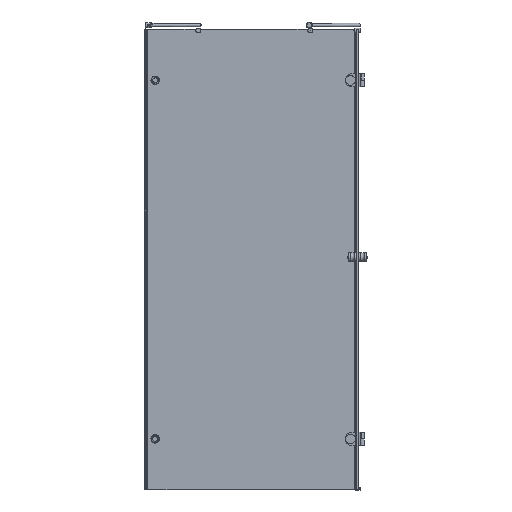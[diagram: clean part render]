
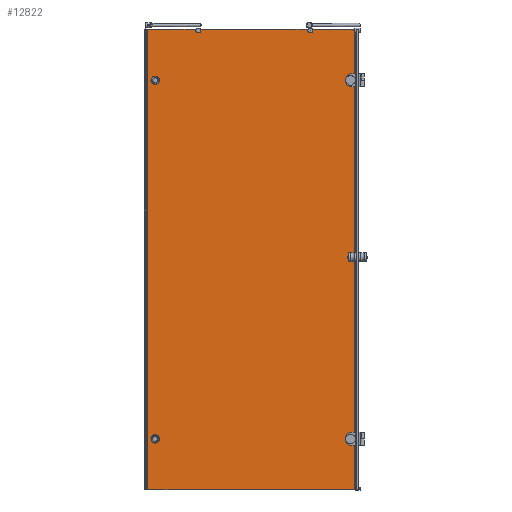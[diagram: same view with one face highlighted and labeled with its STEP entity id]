
A CAD part, front view. The second image highlights one B-rep face of the part: STEP entity #12822.
In plain terms, the highlighted planar face has unit normal (0, -1, 0).
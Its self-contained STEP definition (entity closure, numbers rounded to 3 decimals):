
#507=FACE_OUTER_BOUND($,#1206,.T.);
#1206=EDGE_LOOP($,(#8311,#8312,#8313,#8314,#8315,#8316,#8317,#8318));
#1926=CIRCLE($,#13565,10.);
#1968=CIRCLE($,#13640,10.);
#2469=LINE($,#18537,#3724);
#2508=LINE($,#18651,#3763);
#2541=LINE($,#18851,#3796);
#2542=LINE($,#18853,#3797);
#2543=LINE($,#18854,#3798);
#2544=LINE($,#18855,#3799);
#3724=VECTOR($,#14920,444.574);
#3763=VECTOR($,#15007,1900.);
#3796=VECTOR($,#15130,198.474);
#3797=VECTOR($,#15131,1900.);
#3798=VECTOR($,#15132,853.3);
#3799=VECTOR($,#15133,174.531);
#4960=VERTEX_POINT($,#18510);
#4961=VERTEX_POINT($,#18511);
#4970=VERTEX_POINT($,#18535);
#5020=VERTEX_POINT($,#18648);
#5021=VERTEX_POINT($,#18650);
#5060=VERTEX_POINT($,#18848);
#5061=VERTEX_POINT($,#18850);
#5062=VERTEX_POINT($,#18852);
#6220=EDGE_CURVE($,#4960,#4961,#1926,.T.);
#6232=EDGE_CURVE($,#4970,#4960,#2469,.T.);
#6286=EDGE_CURVE($,#5020,#5021,#2508,.T.);
#6347=EDGE_CURVE($,#5060,#4970,#1968,.T.);
#6348=EDGE_CURVE($,#5061,#5060,#2541,.T.);
#6349=EDGE_CURVE($,#5062,#5061,#2542,.T.);
#6350=EDGE_CURVE($,#5062,#5021,#2543,.T.);
#6351=EDGE_CURVE($,#4961,#5020,#2544,.T.);
#8311=ORIENTED_EDGE($,*,*,#6220,.F.);
#8312=ORIENTED_EDGE($,*,*,#6232,.F.);
#8313=ORIENTED_EDGE($,*,*,#6347,.F.);
#8314=ORIENTED_EDGE($,*,*,#6348,.F.);
#8315=ORIENTED_EDGE($,*,*,#6349,.F.);
#8316=ORIENTED_EDGE($,*,*,#6350,.T.);
#8317=ORIENTED_EDGE($,*,*,#6286,.F.);
#8318=ORIENTED_EDGE($,*,*,#6351,.F.);
#11611=PLANE($,#13639);
#12822=ADVANCED_FACE($,(#507),#11611,.F.);
#13565=AXIS2_PLACEMENT_3D($,#18512,#14897,#14898);
#13639=AXIS2_PLACEMENT_3D($,#18847,#15126,#15127);
#13640=AXIS2_PLACEMENT_3D($,#18849,#15128,#15129);
#14897=DIRECTION('center_axis',(0.,-1.,0.));
#14898=DIRECTION('ref_axis',(0.,0.,
-1.));
#14920=DIRECTION($,(1.,0.,0.));
#15007=DIRECTION($,(0.,0.,-1.));
#15126=DIRECTION('center_axis',(0.,1.,0.));
#15127=DIRECTION('ref_axis',(1.,0.,0.));
#15128=DIRECTION('center_axis',(0.,-1.,0.));
#15129=DIRECTION('ref_axis',(0.,0.,
-1.));
#15130=DIRECTION($,(1.,0.,0.));
#15131=DIRECTION($,(0.,0.,1.));
#15132=DIRECTION($,(1.,0.,0.));
#15133=DIRECTION($,(1.,0.,0.));
#18510=CARTESIAN_POINT('',(1038.927,-158.044,1385.944));
#18511=CARTESIAN_POINT('',(1056.788,-158.044,1385.944));
#18512=CARTESIAN_POINT('Origin',(1047.857,-158.044,1381.444));
#18535=CARTESIAN_POINT('',(594.353,-158.044,1385.944));
#18537=CARTESIAN_POINT($,(373.019,-158.044,1385.944));
#18648=CARTESIAN_POINT('',(1231.319,-158.044,1385.944));
#18650=CARTESIAN_POINT('',(1231.319,-158.044,-514.056));
#18651=CARTESIAN_POINT($,(1231.319,-158.044,435.944));
#18847=CARTESIAN_POINT('Origin',(373.019,-158.044,1385.944));
#18848=CARTESIAN_POINT('',(576.493,-158.044,1385.944));
#18849=CARTESIAN_POINT('Origin',(585.423,-158.044,1381.444));
#18850=CARTESIAN_POINT('',(378.019,-158.044,1385.944));
#18851=CARTESIAN_POINT($,(373.019,-158.044,1385.944));
#18852=CARTESIAN_POINT('',(378.019,-158.044,-514.056));
#18853=CARTESIAN_POINT($,(378.019,-158.044,435.944));
#18854=CARTESIAN_POINT($,(373.019,-158.044,-514.056));
#18855=CARTESIAN_POINT($,(373.019,-158.044,1385.944));
